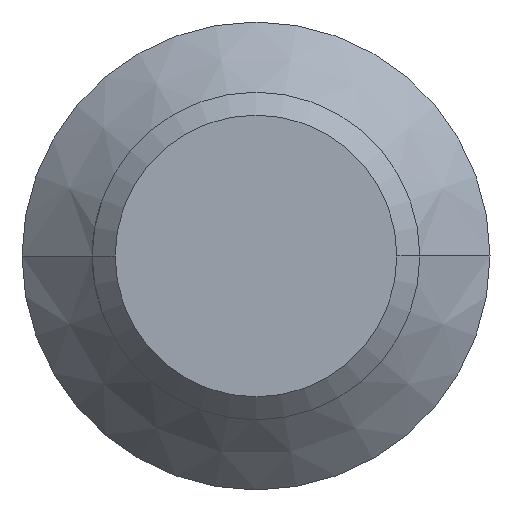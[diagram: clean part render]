
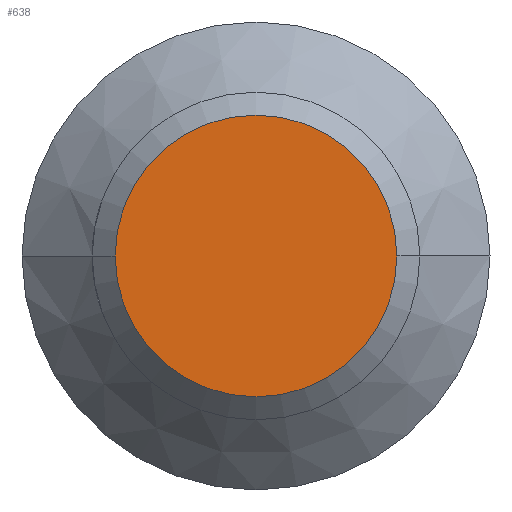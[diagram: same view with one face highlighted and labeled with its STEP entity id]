
A CAD part, left-side view. The second image highlights one B-rep face of the part: STEP entity #638.
In plain terms, the highlighted planar face has unit normal (-1, 0, 0).
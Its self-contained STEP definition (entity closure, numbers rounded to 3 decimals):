
#16 = ORIENTED_EDGE ( 'NONE', *, *, #602, .T. ) ;
#60 = EDGE_CURVE ( 'NONE', #174, #418, #164, .T. ) ;
#110 = CARTESIAN_POINT ( 'NONE',  ( -76., -6.02, 0. ) ) ;
#164 = CIRCLE ( 'NONE', #165, 6.02 ) ;
#165 = AXIS2_PLACEMENT_3D ( 'NONE', #166, #167, #168 ) ;
#166 = CARTESIAN_POINT ( 'NONE',  ( -76., 0., 0. ) ) ;
#167 = DIRECTION ( 'NONE',  ( -1., 0., 0. ) ) ;
#168 = DIRECTION ( 'NONE',  ( 0., -1., 0. ) ) ;
#174 = VERTEX_POINT ( 'NONE', #296 ) ;
#257 = CIRCLE ( 'NONE', #259, 6.02 ) ;
#259 = AXIS2_PLACEMENT_3D ( 'NONE', #260, #261, #262 ) ;
#260 = CARTESIAN_POINT ( 'NONE',  ( -76., 0., 0. ) ) ;
#261 = DIRECTION ( 'NONE',  ( -1., 0., 0. ) ) ;
#262 = DIRECTION ( 'NONE',  ( 0., -1., 0. ) ) ;
#296 = CARTESIAN_POINT ( 'NONE',  ( -76., 6.02, 0. ) ) ;
#326 = ORIENTED_EDGE ( 'NONE', *, *, #60, .T. ) ;
#418 = VERTEX_POINT ( 'NONE', #110 ) ;
#479 = FACE_OUTER_BOUND ( 'NONE', #619, .T. ) ;
#480 = PLANE ( 'NONE',  #481 ) ;
#481 = AXIS2_PLACEMENT_3D ( 'NONE', #482, #483, #484 ) ;
#482 = CARTESIAN_POINT ( 'NONE',  ( -76., 0., 0. ) ) ;
#483 = DIRECTION ( 'NONE',  ( -1., 0., 0. ) ) ;
#484 = DIRECTION ( 'NONE',  ( 0., -1., 0. ) ) ;
#602 = EDGE_CURVE ( 'NONE', #418, #174, #257, .T. ) ;
#619 = EDGE_LOOP ( 'NONE', ( #326, #16 ) ) ;
#638 = ADVANCED_FACE ( 'NONE', ( #479 ), #480, .T. ) ;
